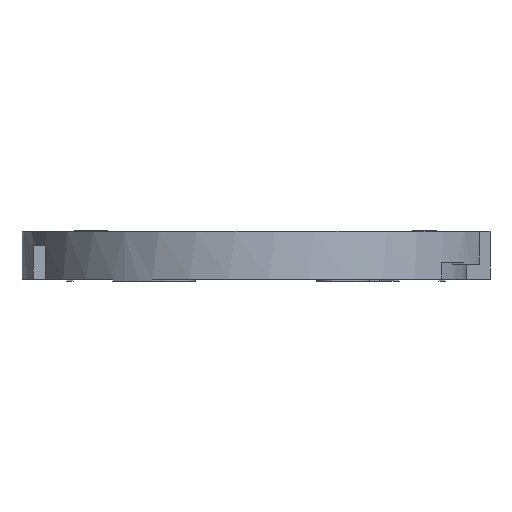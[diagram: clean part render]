
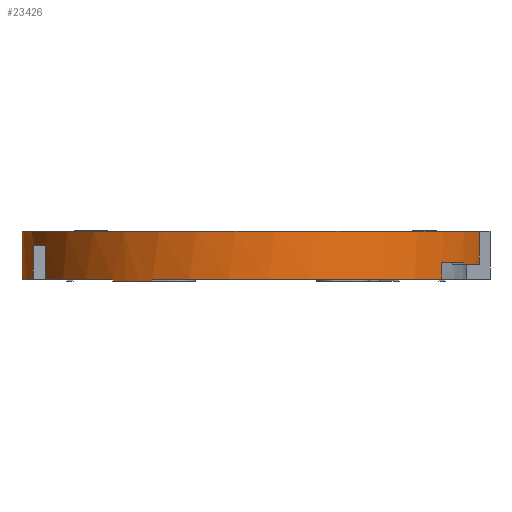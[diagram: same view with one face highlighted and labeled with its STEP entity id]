
A CAD part, left-side view. The second image highlights one B-rep face of the part: STEP entity #23426.
In plain terms, the highlighted cylindrical face has radius 25 mm (diameter 50 mm), a partial arc.
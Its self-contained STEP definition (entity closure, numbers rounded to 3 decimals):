
#10591=CARTESIAN_POINT(' ',(1.09,24.976,5.1));
#10592=VERTEX_POINT(' ',#10591);
#10606=CARTESIAN_POINT(' ',(0.,0.,5.1));
#10611=DIRECTION(' ',(0.,0.,1.));
#10616=DIRECTION(' ',(0.044,0.999,0.));
#10621=AXIS2_PLACEMENT_3D(' ',#10606,#10611,#10616);
#10626=CIRCLE('',#10621,25.);
#10631=CARTESIAN_POINT(' ',(-7.518,-23.843,5.1));
#10632=VERTEX_POINT(' ',#10631);
#10636=EDGE_CURVE(' ',#10592,#10632,#10626,.T.);
#22801=CARTESIAN_POINT(' ',(1.09,24.976,0.));
#22802=VERTEX_POINT(' ',#22801);
#22816=CARTESIAN_POINT(' ',(1.09,24.976,0.));
#22821=DIRECTION(' ',(0.,0.,1.));
#22826=VECTOR(' ',#22821,1.);
#22831=LINE('',#22816,#22826);
#22836=EDGE_CURVE(' ',#22802,#10592,#22831,.T.);
#22861=CARTESIAN_POINT(' ',(0.,0.,22.5));
#22866=DIRECTION(' ',(0.,0.,1.));
#22871=DIRECTION(' ',(0.044,0.999,0.));
#22876=AXIS2_PLACEMENT_3D(' ',#22861,#22866,#22871);
#22881=CYLINDRICAL_SURFACE(' ',#22876,25.);
#22886=CARTESIAN_POINT(' ',(-15.219,-19.834,1.8));
#22891=DIRECTION(' ',(0.,0.,-1.));
#22896=VECTOR(' ',#22891,1.);
#22901=LINE('',#22886,#22896);
#22906=CARTESIAN_POINT(' ',(-15.219,-19.834,1.8));
#22907=VERTEX_POINT(' ',#22906);
#22911=CARTESIAN_POINT(' ',(-15.219,-19.834,0.));
#22912=VERTEX_POINT(' ',#22911);
#22916=EDGE_CURVE(' ',#22907,#22912,#22901,.T.);
#22921=ORIENTED_EDGE(' ',*,*,#22916,.F.);
#22926=CARTESIAN_POINT(' ',(0.,0.,1.8));
#22931=DIRECTION(' ',(0.,0.,1.));
#22936=DIRECTION(' ',(-0.609,-0.793,0.));
#22941=AXIS2_PLACEMENT_3D(' ',#22926,#22931,#22936);
#22946=CIRCLE('',#22941,25.);
#22951=CARTESIAN_POINT(' ',(-11.544,-22.175,1.8));
#22952=VERTEX_POINT(' ',#22951);
#22956=EDGE_CURVE(' ',#22907,#22952,#22946,.T.);
#22961=ORIENTED_EDGE(' ',*,*,#22956,.T.);
#22966=CARTESIAN_POINT(' ',(-11.544,-22.175,1.8));
#22971=DIRECTION(' ',(0.,0.,-1.));
#22976=VECTOR(' ',#22971,1.);
#22981=LINE('',#22966,#22976);
#22986=CARTESIAN_POINT(' ',(-11.544,-22.175,1.6));
#22987=VERTEX_POINT(' ',#22986);
#22991=EDGE_CURVE(' ',#22952,#22987,#22981,.T.);
#22996=ORIENTED_EDGE(' ',*,*,#22991,.T.);
#23001=CARTESIAN_POINT(' ',(0.,0.,1.6));
#23006=DIRECTION(' ',(0.,0.,-1.));
#23011=DIRECTION(' ',(-0.301,-0.954,0.));
#23016=AXIS2_PLACEMENT_3D(' ',#23001,#23006,#23011);
#23021=CIRCLE('',#23016,25.);
#23026=CARTESIAN_POINT(' ',(-7.518,-23.843,1.6));
#23027=VERTEX_POINT(' ',#23026);
#23031=EDGE_CURVE(' ',#23027,#22987,#23021,.T.);
#23036=ORIENTED_EDGE(' ',*,*,#23031,.F.);
#23041=CARTESIAN_POINT(' ',(-7.518,-23.843,5.1));
#23046=DIRECTION(' ',(0.,0.,-1.));
#23051=VECTOR(' ',#23046,1.);
#23056=LINE('',#23041,#23051);
#23061=EDGE_CURVE(' ',#10632,#23027,#23056,.T.);
#23066=ORIENTED_EDGE(' ',*,*,#23061,.F.);
#23071=ORIENTED_EDGE(' ',*,*,#10636,.F.);
#23076=ORIENTED_EDGE(' ',*,*,#22836,.F.);
#23081=CARTESIAN_POINT(' ',(0.,0.,0.));
#23086=DIRECTION(' ',(-0.,0.,1.));
#23091=DIRECTION(' ',(0.044,0.999,0.));
#23096=AXIS2_PLACEMENT_3D(' ',#23081,#23086,#23091);
#23101=CIRCLE('',#23096,25.);
#23106=CARTESIAN_POINT(' ',(-7.725,23.777,0.));
#23107=VERTEX_POINT(' ',#23106);
#23111=EDGE_CURVE(' ',#22802,#23107,#23101,.T.);
#23116=ORIENTED_EDGE(' ',*,*,#23111,.T.);
#23121=CARTESIAN_POINT(' ',(-7.725,23.777,0.));
#23126=DIRECTION(' ',(0.,0.,1.));
#23131=VECTOR(' ',#23126,1.);
#23136=LINE('',#23121,#23131);
#23141=CARTESIAN_POINT(' ',(-7.725,23.777,3.6));
#23142=VERTEX_POINT(' ',#23141);
#23146=EDGE_CURVE(' ',#23107,#23142,#23136,.T.);
#23151=ORIENTED_EDGE(' ',*,*,#23146,.T.);
#23156=CARTESIAN_POINT(' ',(0.,0.,3.6));
#23161=DIRECTION(' ',(0.,0.,1.));
#23166=DIRECTION(' ',(-0.309,0.951,0.));
#23171=AXIS2_PLACEMENT_3D(' ',#23156,#23161,#23166);
#23176=CIRCLE('',#23171,25.);
#23181=CARTESIAN_POINT(' ',(-10.875,22.511,3.6));
#23182=VERTEX_POINT(' ',#23181);
#23186=EDGE_CURVE(' ',#23142,#23182,#23176,.T.);
#23191=ORIENTED_EDGE(' ',*,*,#23186,.T.);
#23196=CARTESIAN_POINT(' ',(-10.875,22.511,0.));
#23201=DIRECTION(' ',(0.,0.,1.));
#23206=VECTOR(' ',#23201,1.);
#23211=LINE('',#23196,#23206);
#23216=CARTESIAN_POINT(' ',(-10.875,22.511,0.));
#23217=VERTEX_POINT(' ',#23216);
#23221=EDGE_CURVE(' ',#23217,#23182,#23211,.T.);
#23226=ORIENTED_EDGE(' ',*,*,#23221,.F.);
#23231=CARTESIAN_POINT(' ',(0.,0.,0.));
#23236=DIRECTION(' ',(-0.,0.,1.));
#23241=DIRECTION(' ',(-0.435,0.9,0.));
#23246=AXIS2_PLACEMENT_3D(' ',#23231,#23236,#23241);
#23251=CIRCLE('',#23246,25.);
#23256=CARTESIAN_POINT(' ',(-19.77,15.302,0.));
#23257=VERTEX_POINT(' ',#23256);
#23261=EDGE_CURVE(' ',#23217,#23257,#23251,.T.);
#23266=ORIENTED_EDGE(' ',*,*,#23261,.T.);
#23271=CARTESIAN_POINT(' ',(-19.77,15.302,-0.2));
#23276=DIRECTION(' ',(0.,0.,1.));
#23281=VECTOR(' ',#23276,1.);
#23286=LINE('',#23271,#23281);
#23291=CARTESIAN_POINT(' ',(-19.77,15.302,-0.2));
#23292=VERTEX_POINT(' ',#23291);
#23296=EDGE_CURVE(' ',#23292,#23257,#23286,.T.);
#23301=ORIENTED_EDGE(' ',*,*,#23296,.F.);
#23306=CARTESIAN_POINT(' ',(0.,0.,-0.2));
#23311=DIRECTION(' ',(0.,0.,-1.));
#23316=DIRECTION(' ',(-0.897,0.442,0.));
#23321=AXIS2_PLACEMENT_3D(' ',#23306,#23311,#23316);
#23326=CIRCLE('',#23321,25.);
#23331=CARTESIAN_POINT(' ',(-22.42,11.061,-0.2));
#23332=VERTEX_POINT(' ',#23331);
#23336=EDGE_CURVE(' ',#23332,#23292,#23326,.T.);
#23341=ORIENTED_EDGE(' ',*,*,#23336,.F.);
#23346=CARTESIAN_POINT(' ',(-22.42,11.061,-0.2));
#23351=DIRECTION(' ',(0.,0.,1.));
#23356=VECTOR(' ',#23351,1.);
#23361=LINE('',#23346,#23356);
#23366=CARTESIAN_POINT(' ',(-22.42,11.061,0.));
#23367=VERTEX_POINT(' ',#23366);
#23371=EDGE_CURVE(' ',#23332,#23367,#23361,.T.);
#23376=ORIENTED_EDGE(' ',*,*,#23371,.T.);
#23381=CARTESIAN_POINT(' ',(0.,0.,0.));
#23386=DIRECTION(' ',(-0.,0.,1.));
#23391=DIRECTION(' ',(-0.897,0.442,0.));
#23396=AXIS2_PLACEMENT_3D(' ',#23381,#23386,#23391);
#23401=CIRCLE('',#23396,25.);
#23406=EDGE_CURVE(' ',#23367,#22912,#23401,.T.);
#23411=ORIENTED_EDGE(' ',*,*,#23406,.T.);
#23416=EDGE_LOOP(' ',(#22921,#22961,#22996,#23036,#23066,#23071,#23076,#23116,#23151,#23191,#23226,#23266,#23301,#23341,#23376,#23411));
#23421=FACE_OUTER_BOUND(' ',#23416,.T.);
#23426=ADVANCED_FACE('',(#23421),#22881,.T.);
